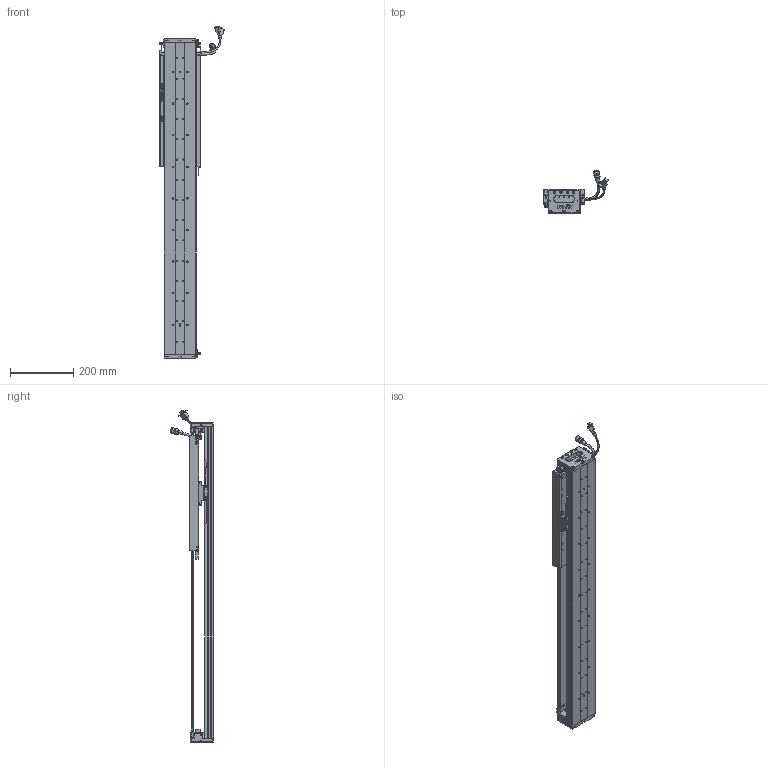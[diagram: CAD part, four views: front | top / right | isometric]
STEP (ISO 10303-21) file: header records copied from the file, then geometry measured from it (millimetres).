
FILE_DESCRIPTION (( 'STEP AP203' ), '1' );
FILE_NAME ('Z5-RY100D-1-L500-B-K.SLDASM_0550.step', '2021-05-17T03:32:28', ( '盈信电脑' ), ( '东莞市道滘镇水果街19号' ), 'SwSTEP 2.0', 'SolidWorks 2016', '' );
FILE_SCHEMA (( 'CONFIG_CONTROL_DESIGN' ));
Length unit declared in the file: millimetre
Products named in the file (36): Z5-RY100D-1-L500-B-K.SLDASM_0550; Z-100詩湍傷裔啣; COVER; 080黍杅芛假蚾釱21遴; 100-Z-臏賑輸盄裔(21遴); Z-RY100D覜茼んえ; SCREW-M1.6-1; SCALE-Part-1; 140雄赽晤鎢ん堤盄; LABEL-Part-1; PSLH080_PSLF2; PBU_SHEET; COVER-Part-1; LABEL; SCREW-M1.7-1; SHIELDPLATE; SCALE-Part-2; HOLDER0; SEAL; Z5-RY100-L500詩湍90mm遵_0550; HARNESS-Part-1; HARNESS; 覜茼ん672; SCALE; SEAL-Part-1; 140蚥薯蝶輸; SCREW-M1.6-2; 榋妏寠巭燃_暯_M2_2; SCREW-M1.7; SCREW-M1.6; SCREW-M1.6-3; Z5-RY100D-500-倰第菁釱_0550; Z5-RY100铝滑块（21款）; Z-RY100D詩湍奻揤裔; HARNESS-Part-2; Z-RY100D詩湍狟揤裔
Assembly tree (43 placements, depth 4):
  Z5-RY100D-1-L500-B-K.SLDASM_0550
    Z5-RY100D-500-倰第菁釱_0550
    Z5-RY100铝滑块（21款）
    PSLH080_PSLF2
      SCALE
        SCALE-Part-1
        SCALE-Part-2
      HARNESS
        HARNESS-Part-1
        HARNESS-Part-2
      LABEL
        LABEL-Part-1
      COVER
        COVER-Part-1
      SEAL
        SEAL-Part-1
      榋妏寠巭燃_暯_M2_2
      SHIELDPLATE
      SCREW-M1.7
      SCREW-M1.7-1
      PBU_SHEET
      SCREW-M1.6
      SCREW-M1.6-1
      SCREW-M1.6-2
      SCREW-M1.6-3
      HOLDER0
    080黍杅芛假蚾釱21遴
    Z-100詩湍傷裔啣  x2
    140蚥薯蝶輸  x2
    覜茼ん672  x3
    Z-RY100D覜茼んえ  x3
    100-Z-臏賑輸盄裔(21遴)
    140雄赽晤鎢ん堤盄
    Z5-RY100-L500詩湍90mm遵_0550
    Z-RY100D詩湍狟揤裔  x2
    Z-RY100D詩湍奻揤裔  x2
Bounding box: 205.84 x 136.11 x 1050.43 mm (x, y, z)
Volume: 2509682.8 mm3; surface area: 920357.4 mm2
Topology: 38 solids, 38 shells, 2567 faces, 6715 edges, 4244 vertices
Faces by surface type: plane 1117, cylinder 1102, cone 226, torus 69, bspline 53
Entity records: 69417 total; most frequent: CARTESIAN_POINT 14619, DIRECTION 10985, ORIENTED_EDGE 10310, EDGE_CURVE 5155, AXIS2_PLACEMENT_3D 4034, VERTEX_POINT 3312, LINE 2917, VECTOR 2917
